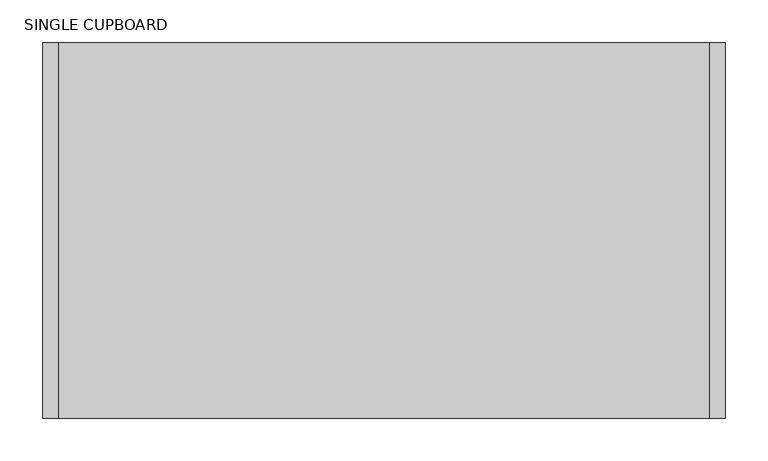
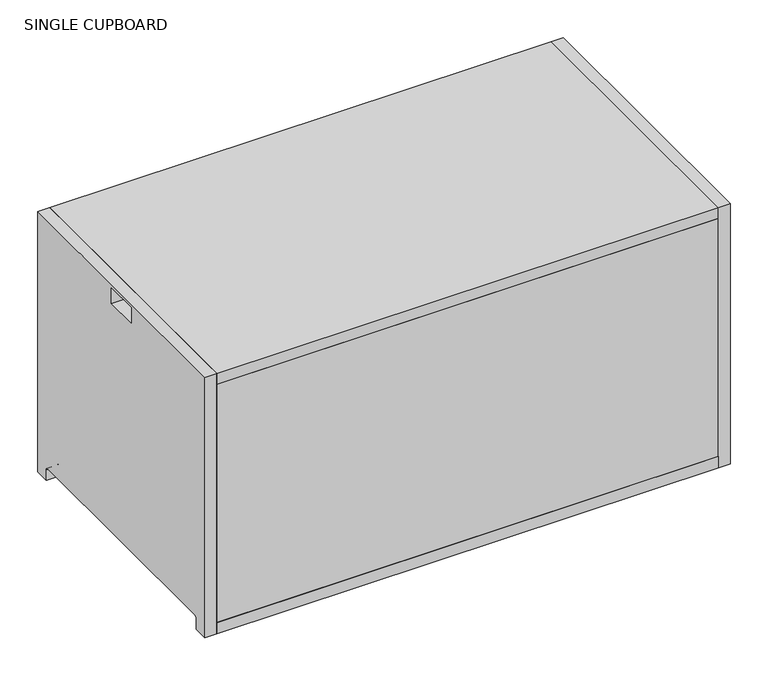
"""IFC4 building model written with IfcOpenShell, lengths in millimetres: furniture geometry, SINGLE CUPBOARD : 800mmW_NO DIVIDER."""

import ifcopenshell
import ifcopenshell.guid

model = None  # the IFC model being written
_history = None  # IfcOwnerHistory: only IFC2X3 demands one
_inside = {}  # id of a spatial element -> (the spatial element, [elements in it])
_under = {}  # id of a project, library or spatial element -> (it, [spatial elements below it])
_declared = {}  # id of a project -> (the project, [libraries it declares])
_typed = {}  # id of a type object -> (the type object, [elements of that type])
_made_of = {}  # id of a material, layer set ... -> (it, [elements and type objects made of it])


def new_model(schema):
    """Start an empty IFC model of exactly this schema.

    Asked for "IFC4X3", IfcOpenShell would pick the latest addendum, in which some entities
    have other attributes; the version numbers below select the first issue.
    IFC2X3 requires an IfcOwnerHistory on every rooted entity: one is made here for all.
    """
    global model, _history
    if schema == "IFC4X3":
        model = ifcopenshell.file(schema_version=(4, 3, 0, 0))
    else:
        model = ifcopenshell.file(schema=schema)
    _inside.clear()
    _under.clear()
    _declared.clear()
    _typed.clear()
    _made_of.clear()
    _history = None
    if model.schema == "IFC2X3":
        org = make("IfcOrganization", Name="unknown")
        user = make(
            "IfcPersonAndOrganization",
            ThePerson=make("IfcPerson", FamilyName="unknown"),
            TheOrganization=org,
        )
        app = make(
            "IfcApplication",
            ApplicationDeveloper=org,
            Version="unknown",
            ApplicationFullName="unknown",
            ApplicationIdentifier="unknown",
        )
        _history = make(
            "IfcOwnerHistory",
            OwningUser=user,
            OwningApplication=app,
            ChangeAction="ADDED",
            CreationDate=0,
        )
    return model


def make(cls, **values):
    """One entity of the class cls with the attributes given. An attribute that is None is left unset."""
    return model.create_entity(
        cls, **{name: value for name, value in values.items() if value is not None}
    )


def rooted(cls, **values):
    """An entity with a GlobalId (a new one), such as an element, a storey or a relation."""
    return make(cls, GlobalId=ifcopenshell.guid.new(), OwnerHistory=_history, **values)


def si_unit(unit_type, name, prefix=None):
    """IfcSIUnit, for example si_unit("LENGTHUNIT", "METRE", prefix="MILLI")."""
    return make("IfcSIUnit", UnitType=unit_type, Prefix=prefix, Name=name)


def assignment(units):
    """IfcUnitAssignment: the units of a project."""
    return None if units is None else make("IfcUnitAssignment", Units=units)


def point(xyz):
    """IfcCartesianPoint."""
    return None if xyz is None else make("IfcCartesianPoint", Coordinates=xyz)


def direction(xyz):
    """IfcDirection."""
    return None if xyz is None else make("IfcDirection", DirectionRatios=xyz)


def frame(location, z_axis=None, x_axis=None):
    """IfcAxis2Placement3D, a coordinate frame: its origin and axes. An axis left out is left unset."""
    return make(
        "IfcAxis2Placement3D",
        Location=point(location),
        Axis=direction(z_axis),
        RefDirection=direction(x_axis),
    )


def frame_2d(location, x_axis=None):
    """IfcAxis2Placement2D, a coordinate frame in the plane: its origin and x axis."""
    return make(
        "IfcAxis2Placement2D", Location=point(location), RefDirection=direction(x_axis)
    )


def origin():
    """The frame at (0, 0, 0) with its axes left unset."""
    return frame((0.0, 0.0, 0.0))


def place(relative_to, where):
    """IfcLocalPlacement: puts the frame where relative to a parent placement (None: the world)."""
    return make(
        "IfcLocalPlacement", PlacementRelTo=relative_to, RelativePlacement=where
    )


def context(
    kind, dimensions, precision=None, world=None, true_north=None, identifier=None
):
    """IfcGeometricRepresentationContext, for example the 3D "Model" context."""
    return make(
        "IfcGeometricRepresentationContext",
        ContextIdentifier=identifier,
        ContextType=kind,
        CoordinateSpaceDimension=dimensions,
        Precision=precision,
        WorldCoordinateSystem=world,
        TrueNorth=true_north,
    )


def project(units=None, contexts=None):
    """IfcProject with its units and contexts."""
    return rooted(
        "IfcProject",
        Name="project",
        RepresentationContexts=contexts,
        UnitsInContext=assignment(units),
    )


def spatial(cls, under=None, at=None, **own):
    """A site, building, storey or space (cls), placed at a placement, below another one or the project."""
    s = rooted(cls, ObjectPlacement=at, **own)
    if under is not None:
        _under.setdefault(under.id(), (under, []))[1].append(s)
    return s


def polyline(points):
    """IfcPolyline through the points."""
    return make("IfcPolyline", Points=[point(p) for p in points])


def circle_curve(where, radius):
    """IfcCircle in the frame where."""
    return make("IfcCircle", Position=where, Radius=radius)


def trimmed(basis, trim1, trim2, sense, master):
    """IfcTrimmedCurve: the piece of a basis curve between two trims."""
    return make(
        "IfcTrimmedCurve",
        BasisCurve=basis,
        Trim1=trim1,
        Trim2=trim2,
        SenseAgreement=sense,
        MasterRepresentation=master,
    )


def segment(curve, same_sense, transition):
    """IfcCompositeCurveSegment."""
    return make(
        "IfcCompositeCurveSegment",
        Transition=transition,
        SameSense=same_sense,
        ParentCurve=curve,
    )


def composite_curve(segments, self_intersect=None):
    """IfcCompositeCurve: segments joined end to end."""
    return make("IfcCompositeCurve", Segments=segments, SelfIntersect=self_intersect)


def outline(outer, holes=None, kind="AREA"):
    """IfcArbitraryClosedProfileDef: a profile drawn as a closed curve; with holes, ...WithVoids."""
    if holes is None:
        return make("IfcArbitraryClosedProfileDef", ProfileType=kind, OuterCurve=outer)
    return make(
        "IfcArbitraryProfileDefWithVoids",
        ProfileType=kind,
        OuterCurve=outer,
        InnerCurves=holes,
    )


def extrude(swept, where, along, depth):
    """IfcExtrudedAreaSolid: the profile swept, set in the frame where, extruded along a direction by depth."""
    return make(
        "IfcExtrudedAreaSolid",
        SweptArea=swept,
        Position=where,
        ExtrudedDirection=direction(along),
        Depth=depth,
    )


def shape(context_of_items, identifier, shape_type, items):
    """IfcShapeRepresentation: the items that make up one representation, for example the "Body"."""
    return make(
        "IfcShapeRepresentation",
        ContextOfItems=context_of_items,
        RepresentationIdentifier=identifier,
        RepresentationType=shape_type,
        Items=items,
    )


def source(mapping_origin, context_of_items, identifier, shape_type, items):
    """IfcRepresentationMap: a shape defined once, which mapped items show again and again."""
    return make(
        "IfcRepresentationMap",
        MappingOrigin=mapping_origin,
        MappedRepresentation=shape(context_of_items, identifier, shape_type, items),
    )


def transform(
    local_origin,
    x_axis=None,
    y_axis=None,
    z_axis=None,
    scale=None,
    scale2=None,
    scale3=None,
    uniform=True,
):
    """IfcCartesianTransformationOperator3D, or its non-uniform kind. x_axis, y_axis, z_axis: its Axis1, 2, 3."""
    if uniform:
        return make(
            "IfcCartesianTransformationOperator3D",
            Axis1=direction(x_axis),
            Axis2=direction(y_axis),
            LocalOrigin=point(local_origin),
            Scale=scale,
            Axis3=direction(z_axis),
        )
    return make(
        "IfcCartesianTransformationOperator3DnonUniform",
        Axis1=direction(x_axis),
        Axis2=direction(y_axis),
        LocalOrigin=point(local_origin),
        Scale=scale,
        Axis3=direction(z_axis),
        Scale2=scale2,
        Scale3=scale3,
    )


def mapped(mapping_source, mapping_target):
    """IfcMappedItem: shows the shape of a source again, moved by a transform."""
    return make(
        "IfcMappedItem", MappingSource=mapping_source, MappingTarget=mapping_target
    )


def made_of(thing, what):
    """Note that an element or type object is made of a material, layer set ...; save() writes the relation."""
    if what is not None:
        _made_of.setdefault(what.id(), (what, []))[1].append(thing)
    return thing


def element(
    cls,
    number,
    at=None,
    inside=None,
    cuts=None,
    type_object=None,
    material=None,
    context=None,
    identifier="Body",
    shape_type=None,
    held_by="IfcProductDefinitionShape",
    body=None,
    shapes=None,
    **own,
):
    """One element of the class cls, such as IfcWall. Its Tag is "e" and its number.

    at: its placement. inside: the storey or other place that contains it. cuts: it is an
    opening in that element (IfcRelVoidsElement). A single representation is given by context,
    identifier, shape_type and body (its items); several are given by shapes. held_by: the class
    of the entity that holds the representations. save() writes the other relations.
    """
    e = rooted(cls, Tag="e%d" % number, ObjectPlacement=at, **own)
    if body is not None:
        shapes = [shape(context, identifier, shape_type, body)]
    if shapes is not None:
        e.Representation = make(held_by, Representations=shapes)
    if inside is not None:
        _inside.setdefault(inside.id(), (inside, []))[1].append(e)
    if cuts is not None:
        rooted(
            "IfcRelVoidsElement", RelatingBuildingElement=cuts, RelatedOpeningElement=e
        )
    if type_object is not None:
        _typed.setdefault(type_object.id(), (type_object, []))[1].append(e)
    return made_of(e, material)


def aggregate(whole, parts):
    """IfcRelAggregates: a whole, such as a stair, and the parts it consists of."""
    return rooted("IfcRelAggregates", RelatingObject=whole, RelatedObjects=parts)


def save(model, path):
    """Write the relations noted so far, then the file.

    IfcRelAggregates (storeys below a building ...), IfcRelContainedInSpatialStructure (elements
    in a storey), IfcRelDefinesByType, IfcRelAssociatesMaterial and IfcRelDeclares: one each for
    every whole, place, type object, material and project.
    """
    for whole, parts in _under.values():
        aggregate(whole, parts)
    for where, things in _inside.values():
        rooted(
            "IfcRelContainedInSpatialStructure",
            RelatedElements=things,
            RelatingStructure=where,
        )
    for kind, things in _typed.values():
        rooted("IfcRelDefinesByType", RelatedObjects=things, RelatingType=kind)
    for what, things in _made_of.values():
        rooted("IfcRelAssociatesMaterial", RelatedObjects=things, RelatingMaterial=what)
    for by, libraries in _declared.values():
        rooted("IfcRelDeclares", RelatingContext=by, RelatedDefinitions=libraries)
    model.write(path)


def plane_surface(at):
    """IfcPlane: the flat surface through the origin of the frame at, square to its z axis."""
    return make("IfcPlane", Position=at)


def revolved_surface(curve, axis_point, axis_direction):
    """IfcSurfaceOfRevolution: the curve turned about the line through axis_point along axis_direction."""
    return make(
        "IfcSurfaceOfRevolution",
        SweptCurve=make("IfcArbitraryOpenProfileDef", ProfileType="CURVE", Curve=curve),
        AxisPosition=make("IfcAxis1Placement", Location=point(axis_point), Axis=direction(axis_direction)),
    )


def advanced_brep(points, edges, surfaces, faces):
    """IfcAdvancedBrep: a solid bounded by faces that lie on surfaces and meet in shared edges.

    An edge is (start, end): straight between two places in points (the first is 0);
    or (start, end, curve); or (start, end, curve, False) where it runs against its curve.
    A face is (place in surfaces, loops), or (place, loops, False) where it looks against
    its surface's normal. A loop lists edges by number (the first is 1), with a minus sign
    where the edge is run from its end to its start. The first loop is the outer one.
    """
    corners = [point(p) for p in points]
    vertices = [make("IfcVertexPoint", VertexGeometry=c) for c in corners]
    made = []
    for start, end, *more in edges:
        made.append(
            make(
                "IfcEdgeCurve",
                EdgeStart=vertices[start],
                EdgeEnd=vertices[end],
                EdgeGeometry=more[0] if more else make("IfcPolyline", Points=[corners[start], corners[end]]),
                SameSense=more[1] if len(more) > 1 else True,
            )
        )
    hull = []
    for where, loops, *sense in faces:
        bounds = []
        for j, loop in enumerate(loops):
            ring = [make("IfcOrientedEdge", EdgeElement=made[abs(k) - 1], Orientation=k > 0) for k in loop]
            bounds.append(
                make(
                    "IfcFaceOuterBound" if j == 0 else "IfcFaceBound",
                    Bound=make("IfcEdgeLoop", EdgeList=ring),
                    Orientation=True,
                )
            )
        hull.append(make("IfcAdvancedFace", Bounds=bounds, FaceSurface=surfaces[where], SameSense=sense[0] if sense else True))
    return make("IfcAdvancedBrep", Outer=make("IfcClosedShell", CfsFaces=hull))


def single_cupboard_d1347a9c(model_context):
    return source(origin(), model_context, "Body", "SolidModel", [
        extrude(outline(composite_curve([segment(polyline([(220.0, 419.5), (220.0, 0.0), (198.0, 0.0), (198.0, 17.0)]), True, "CONTINUOUS"), segment(trimmed(circle_curve(frame_2d((194.0, 17.0)), 4.0), [point((198.0, 17.0))], [point((194.0, 21.0))], True, "CARTESIAN"), True, "CONTINUOUS"), segment(polyline([(194.0, 21.0), (-194.0, 21.0)]), True, "CONTINUOUS"), segment(trimmed(circle_curve(frame_2d((-194.0, 17.0)), 4.0), [point((-194.0, 21.0))], [point((-198.0, 17.0))], True, "CARTESIAN"), True, "CONTINUOUS"), segment(polyline([(-198.0, 17.0), (-198.0, 0.0), (-220.0, 0.0), (-220.0, 419.5), (220.0, 419.5)]), True, "CONTINUOUS")], self_intersect=False), holes=[polyline([(26.0, 414.5), (-26.0, 414.5), (-26.0, 389.5), (26.0, 389.5), (26.0, 414.5)])]), frame((-400.0, 0.0, 0.0), z_axis=(1.0, 0.0, 0.0), x_axis=(0.0, 1.0, 0.0)), (0.0, 0.0, 1.0), 18.0),
        advanced_brep(
        [(382.0, -220.0, 18.0), (382.0, 220.0, 18.0), (-382.0, 220.0, 18.0), (-382.0, 197.8729833, 18.0), (-376.1019215, 197.8729833, 18.0), (-376.1019215, -197.8729833, 18.0), (-382.0, -197.8729833, 18.0), (-382.0, -220.0, 18.0), (382.0, -220.0, 0.0), (-382.0, -220.0, 0.0), (-382.0, -198.0, 0.0), (-376.1019215, -198.0, 0.0), (-376.1019215, 198.0, 0.0), (-382.0, 198.0, 0.0), (-382.0, 220.0, 0.0), (382.0, 220.0, 0.0), (-382.0, -198.0, 17.0), (-382.0, 198.0, 17.0), (-376.1019215, -198.0, 17.0), (-376.1019215, 198.0, 17.0)],
        [
            (0, 1),
            (1, 2),
            (2, 3),
            (3, 4),
            (4, 5),
            (5, 6),
            (6, 7),
            (7, 0),
            (8, 9),
            (9, 10),
            (10, 11),
            (11, 12),
            (12, 13),
            (13, 14),
            (14, 15),
            (15, 8),
            (7, 9),
            (8, 0),
            (6, 16, circle_curve(frame((-382.0, -194.0, 17.0), z_axis=(1.0, 0.0, 0.0), x_axis=(0.0, -1.0, 0.0)), 4.0)),
            (16, 10),
            (13, 17),
            (17, 3, circle_curve(frame((-382.0, 194.0, 17.0), z_axis=(1.0, 0.0, 0.0), x_axis=(0.0, -1.0, 0.0)), 4.0)),
            (2, 14),
            (1, 15),
            (18, 5, circle_curve(frame((-376.1019215, -194.0, 17.0), z_axis=(-1.0, 0.0, 0.0), x_axis=(0.0, -1.0, 0.0)), 4.0)),
            (4, 19, circle_curve(frame((-376.1019215, 194.0, 17.0), z_axis=(-1.0, 0.0, 0.0), x_axis=(0.0, -1.0, 0.0)), 4.0)),
            (19, 12),
            (11, 18),
            (17, 19),
            (16, 18),
        ],
        [
            plane_surface(frame((-382.0, -220.0, 18.0), z_axis=(0.0, 0.0, 1.0), x_axis=(-1.0, 0.0, 0.0))),
            plane_surface(frame((-382.0, -220.0, 0.0), z_axis=(0.0, 0.0, -1.0), x_axis=(1.0, 0.0, 0.0))),
            plane_surface(frame((382.0, -220.0, 18.0), z_axis=(0.0, -1.0, 0.0), x_axis=(0.0, 0.0, -1.0))),
            plane_surface(frame((-382.0, -220.0, 18.0), z_axis=(-1.0, 0.0, 0.0), x_axis=(0.0, 0.0, -1.0))),
            plane_surface(frame((-382.0, 220.0, 18.0), z_axis=(0.0, 1.0, 0.0), x_axis=(0.0, 0.0, -1.0))),
            plane_surface(frame((382.0, 220.0, 18.0), z_axis=(1.0, 0.0, 0.0), x_axis=(0.0, 0.0, -1.0))),
            plane_surface(frame((-376.1019215, 190.0, 17.0), z_axis=(-1.0, 0.0, 0.0), x_axis=(0.0, 0.0, 1.0))),
            revolved_surface(polyline([(-376.1019215, 190.0, 17.0), (-382.0, 190.0, 17.0)]), (-406.0458228, 194.0, 17.0), (1.0, 0.0, 0.0)),
            plane_surface(frame((-376.1019215, 198.0, 17.0), z_axis=(0.0, -1.0, 0.0), x_axis=(-1.0, 0.0, 0.0))),
            plane_surface(frame((-376.1019215, -198.0, 0.0), z_axis=(0.0, 1.0, 0.0), x_axis=(-1.0, 0.0, 0.0))),
            revolved_surface(polyline([(-376.1019215, -198.0, 17.0), (-382.0, -198.0, 17.0)]), (-406.0458228, -194.0, 17.0), (1.0, 0.0, 0.0)),
        ],
        [
            (0, [[1, 2, 3, 4, 5, 6, 7, 8]]),
            (1, [[9, 10, 11, 12, 13, 14, 15, 16]]),
            (2, [[17, -9, 18, -8]]),
            (3, [[-7, 19, 20, -10, -17]]),
            (3, [[-14, 21, 22, -3, 23]]),
            (4, [[24, -15, -23, -2]]),
            (5, [[-18, -16, -24, -1]]),
            (6, [[25, -5, 26, 27, -12, 28]]),
            (7, [[-4, -22, 29, -26]]),
            (8, [[-29, -21, -13, -27]]),
            (9, [[-11, -20, 30, -28]]),
            (10, [[-30, -19, -6, -25]]),
        ],
    ),
        extrude(outline(composite_curve([segment(polyline([(220.0, 419.5), (220.0, 0.0), (198.0, 0.0), (198.0, 17.0)]), True, "CONTINUOUS"), segment(trimmed(circle_curve(frame_2d((194.0, 17.0)), 4.0), [point((198.0, 17.0))], [point((194.0, 21.0))], True, "CARTESIAN"), True, "CONTINUOUS"), segment(polyline([(194.0, 21.0), (-194.0, 21.0)]), True, "CONTINUOUS"), segment(trimmed(circle_curve(frame_2d((-194.0, 17.0)), 4.0), [point((-194.0, 21.0))], [point((-198.0, 17.0))], True, "CARTESIAN"), True, "CONTINUOUS"), segment(polyline([(-198.0, 17.0), (-198.0, 0.0), (-220.0, 0.0), (-220.0, 419.5), (220.0, 419.5)]), True, "CONTINUOUS")], self_intersect=False), holes=[polyline([(26.0, 414.5), (-26.0, 414.5), (-26.0, 389.5), (26.0, 389.5), (26.0, 414.5)])]), frame((382.0, 0.0, 0.0), z_axis=(1.0, 0.0, 0.0), x_axis=(0.0, 1.0, 0.0)), (0.0, 0.0, 1.0), 18.0),
        extrude(outline(polyline([(382.0, -220.0), (-382.0, -220.0), (-382.0, -202.0), (382.0, -202.0), (382.0, -220.0)])), frame((0.0, 0.0, 18.0), z_axis=(0.0, 0.0, 1.0), x_axis=(1.0, 0.0, 0.0)), (0.0, 0.0, 1.0), 383.5),
        extrude(outline(polyline([(382.0, -220.0), (-382.0, -220.0), (-382.0, 220.0), (382.0, 220.0), (382.0, -220.0)])), frame((0.0, 0.0, 401.5), z_axis=(0.0, 0.0, 1.0), x_axis=(1.0, 0.0, 0.0)), (0.0, 0.0, 1.0), 18.0),
    ])


if __name__ == "__main__":
    model = new_model("IFC4")
    model_context = context("Model", 3, world=origin())
    ifc_project = project(units=[si_unit("LENGTHUNIT", "METRE", prefix="MILLI")], contexts=[model_context])
    site = spatial("IfcSite", under=ifc_project)
    building = spatial("IfcBuilding", under=site)
    placement = place(None, origin())
    single_cupboard_shape = single_cupboard_d1347a9c(model_context)
    element("IfcFurniture", 1, ObjectType="SINGLE CUPBOARD : 800mmW_NO DIVIDER", at=placement, inside=building, context=model_context, shape_type="MappedRepresentation", body=[
        mapped(single_cupboard_shape, transform((0.0, 0.0, 0.0), x_axis=(1.0, 0.0, 0.0), y_axis=(0.0, 1.0, 0.0), z_axis=(0.0, 0.0, 1.0))),
    ])
    save(model, "model.ifc")
